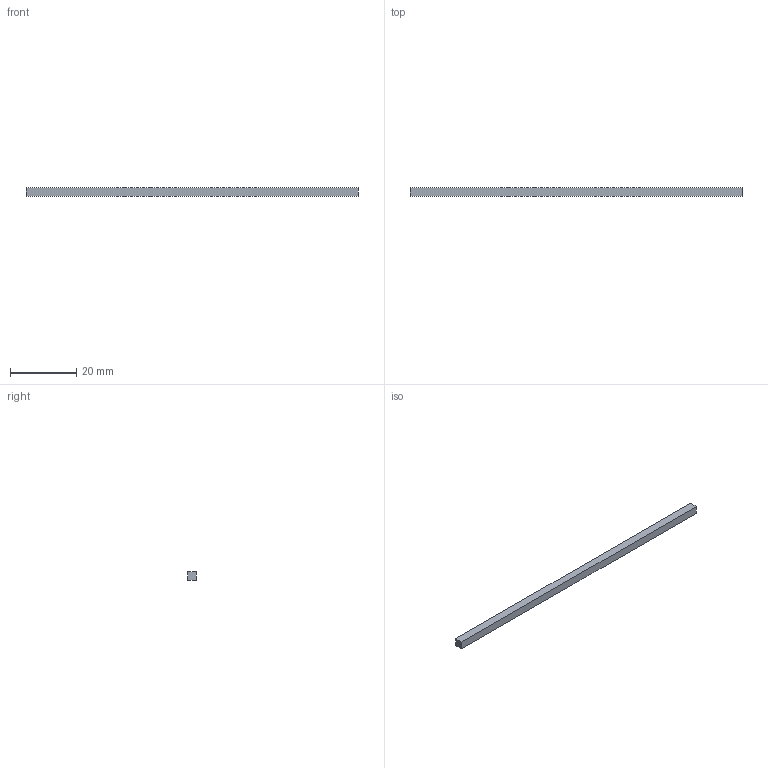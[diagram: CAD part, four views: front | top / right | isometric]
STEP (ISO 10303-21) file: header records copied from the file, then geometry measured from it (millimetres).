
FILE_DESCRIPTION(('FreeCAD Model'),'2;1');
FILE_NAME('Open CASCADE Shape Model','2023-12-15T12:06:55',('Author'),( ''),'Open CASCADE STEP processor 7.5','FreeCAD','Unknown');
FILE_SCHEMA(('AUTOMOTIVE_DESIGN { 1 0 10303 214 1 1 1 1 }'));
Length unit declared in the file: millimetre
Products named in the file (1): Pad
Bounding box: 100 x 2.5 x 2.5 mm (x, y, z)
Volume: 625 mm3; surface area: 1012.5 mm2
Topology: 1 solids, 1 shells, 6 faces, 12 edges, 8 vertices
Faces by surface type: plane 6
Entity records: 334 total; most frequent: CARTESIAN_POINT 51, DIRECTION 50, LINE 36, VECTOR 36, ORIENTED_EDGE 24, PCURVE 24, DEFINITIONAL_REPRESENTATION 24, EDGE_CURVE 12
